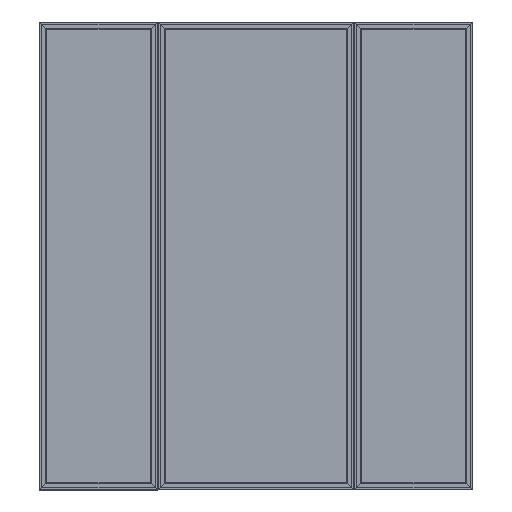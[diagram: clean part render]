
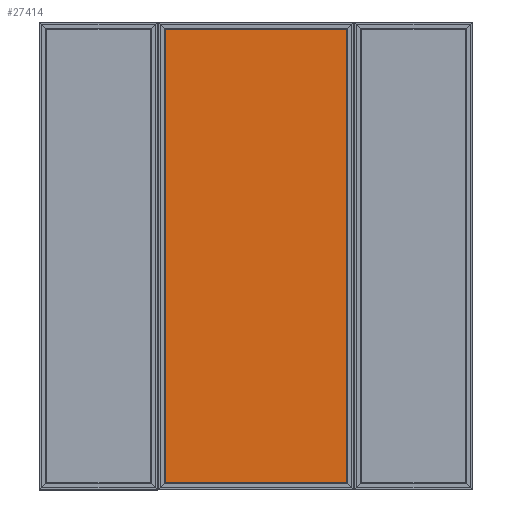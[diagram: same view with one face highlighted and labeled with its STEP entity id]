
A CAD part, top view. The second image highlights one B-rep face of the part: STEP entity #27414.
In plain terms, the highlighted planar face has unit normal (0, 0, 1).
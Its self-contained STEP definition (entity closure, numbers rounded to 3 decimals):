
#1115 = CARTESIAN_POINT ( 'NONE',  ( -465.07, 1162.2, -13.25 ) ) ;
#1181 = CARTESIAN_POINT ( 'NONE',  ( 465.07, 1162.2, -13.25 ) ) ;
#1975 = EDGE_CURVE ( 'NONE', #45113, #25665, #30191, .T. ) ;
#11184 = LINE ( 'NONE', #14711, #44069 ) ;
#12035 = EDGE_CURVE ( 'NONE', #25665, #49348, #11184, .T. ) ;
#13126 = ORIENTED_EDGE ( 'NONE', *, *, #12035, .T. ) ;
#13802 = DIRECTION ( 'NONE',  ( -1., 0., 0. ) ) ;
#14302 = DIRECTION ( 'NONE',  ( -1., 0., 0. ) ) ;
#14711 = CARTESIAN_POINT ( 'NONE',  ( 0., 1162.2, -13.25 ) ) ;
#16198 = VECTOR ( 'NONE', #22282, 1000. ) ;
#18079 = ORIENTED_EDGE ( 'NONE', *, *, #51890, .F. ) ;
#20974 = VECTOR ( 'NONE', #26395, 1000. ) ;
#21038 = VERTEX_POINT ( 'NONE', #41259 ) ;
#22282 = DIRECTION ( 'NONE',  ( 0., 1., 0. ) ) ;
#22552 = EDGE_CURVE ( 'NONE', #21038, #49348, #47448, .T. ) ;
#24216 = EDGE_LOOP ( 'NONE', ( #26397, #18079, #30861, #13126 ) ) ;
#25665 = VERTEX_POINT ( 'NONE', #1181 ) ;
#26395 = DIRECTION ( 'NONE',  ( 0., 1., 0. ) ) ;
#26397 = ORIENTED_EDGE ( 'NONE', *, *, #22552, .F. ) ;
#27414 = ADVANCED_FACE ( 'NONE', ( #38926 ), #38401, .F. ) ;
#29450 = AXIS2_PLACEMENT_3D ( 'NONE', #38125, #47057, #14302 ) ;
#30191 = LINE ( 'NONE', #46705, #20974 ) ;
#30326 = LINE ( 'NONE', #50068, #35474 ) ;
#30861 = ORIENTED_EDGE ( 'NONE', *, *, #1975, .T. ) ;
#35474 = VECTOR ( 'NONE', #13802, 1000. ) ;
#35527 = CARTESIAN_POINT ( 'NONE',  ( -465.07, 0., -13.25 ) ) ;
#35827 = CARTESIAN_POINT ( 'NONE',  ( 465.07, -1162.2, -13.25 ) ) ;
#38125 = CARTESIAN_POINT ( 'NONE',  ( 0., 0., -13.25 ) ) ;
#38401 = PLANE ( 'NONE',  #29450 ) ;
#38926 = FACE_OUTER_BOUND ( 'NONE', #24216, .T. ) ;
#41259 = CARTESIAN_POINT ( 'NONE',  ( -465.07, -1162.2, -13.25 ) ) ;
#44069 = VECTOR ( 'NONE', #52343, 1000. ) ;
#45113 = VERTEX_POINT ( 'NONE', #35827 ) ;
#46705 = CARTESIAN_POINT ( 'NONE',  ( 465.07, 0., -13.25 ) ) ;
#47057 = DIRECTION ( 'NONE',  ( 0., 0., -1. ) ) ;
#47448 = LINE ( 'NONE', #35527, #16198 ) ;
#49348 = VERTEX_POINT ( 'NONE', #1115 ) ;
#50068 = CARTESIAN_POINT ( 'NONE',  ( 0., -1162.2, -13.25 ) ) ;
#51890 = EDGE_CURVE ( 'NONE', #45113, #21038, #30326, .T. ) ;
#52343 = DIRECTION ( 'NONE',  ( -1., 0., 0. ) ) ;
